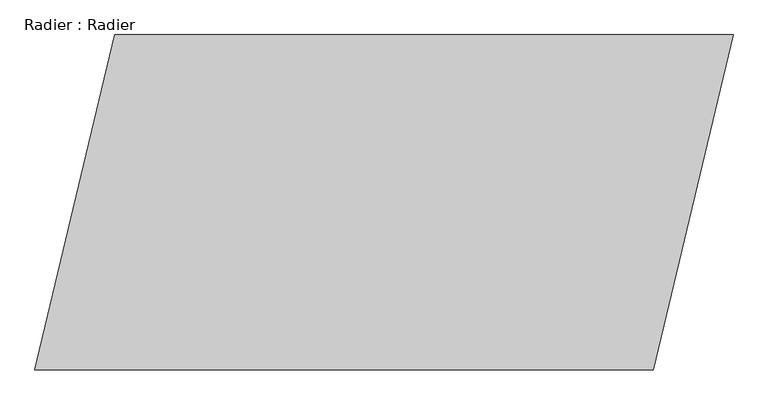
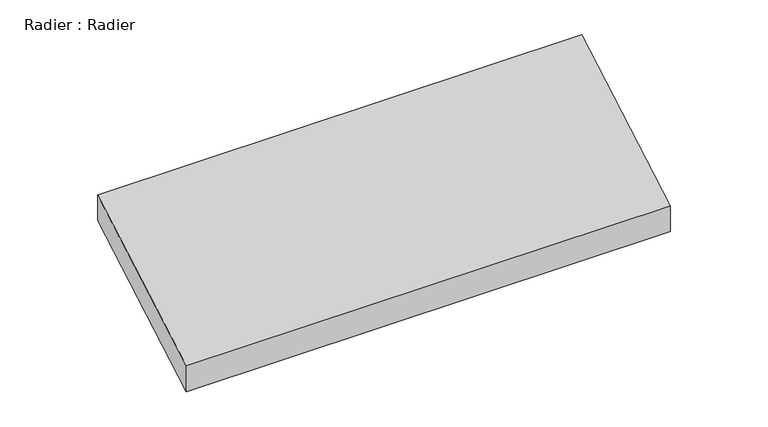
"""IFC4 building model written with IfcOpenShell, lengths in millimetres: proxy geometry, Radier : Radier."""

from ifc_helpers import new_model, si_unit, frame, origin, place, context, project, spatial, polyline, outline, extrude, source, transform, mapped, element, save


def radier_radier_ac710929(model_context):
    return source(origin(), model_context, "Body", "SweptSolid", [
        extrude(outline(polyline([(6038.8666255, 2900.0), (4653.6345839, -2900.0), (-6038.8666255, -2900.0), (-4653.6345839, 2900.0), (6038.8666255, 2900.0)])), frame((0.0, 0.0, 100.0), z_axis=(0.0, 0.0, 1.0), x_axis=(1.0, 0.0, 0.0)), (0.0, 0.0, 1.0), 600.0),
    ])


if __name__ == "__main__":
    model = new_model("IFC4")
    model_context = context("Model", 3, world=origin())
    ifc_project = project(units=[si_unit("LENGTHUNIT", "METRE", prefix="MILLI")], contexts=[model_context])
    site = spatial("IfcSite", under=ifc_project)
    building = spatial("IfcBuilding", under=site)
    placement = place(None, origin())
    radier_radier_shape = radier_radier_ac710929(model_context)
    element("IfcBuildingElementProxy", 1, Name="Radier : Radier", ObjectType="Radier : Radier", at=placement, inside=building, context=model_context, shape_type="MappedRepresentation", body=[
        mapped(radier_radier_shape, transform((0.0, 0.0, 0.0), x_axis=(1.0, 0.0, 0.0), y_axis=(0.0, 1.0, 0.0), z_axis=(0.0, 0.0, 1.0))),
    ])
    save(model, "model.ifc")
